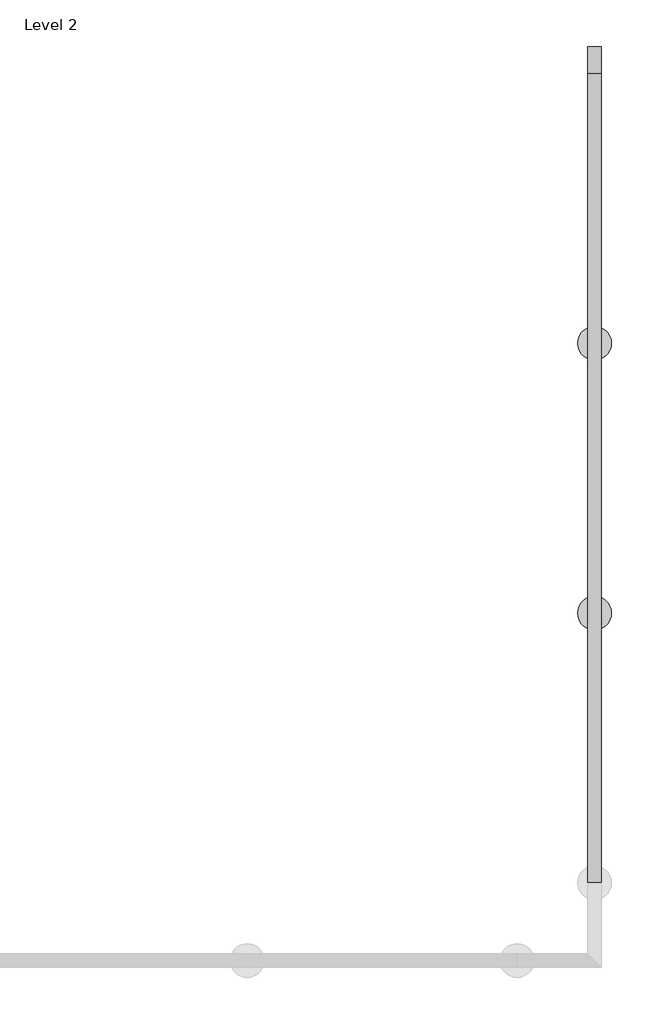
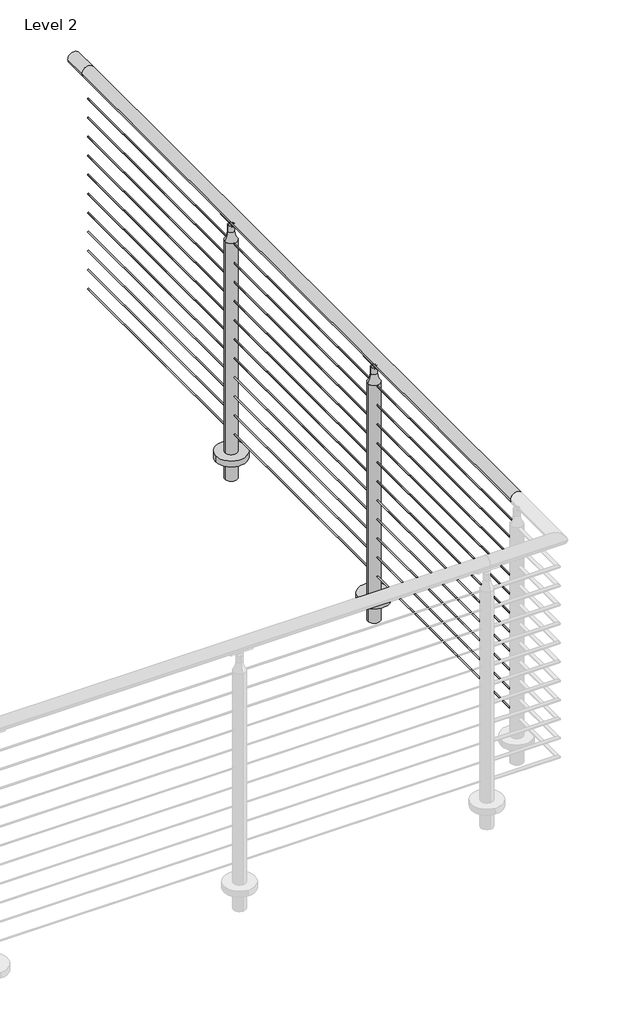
# One storey, part 21 of 21: 1 railing.
"""IFC4 building model written with IfcOpenShell, lengths in millimetres."""

from ifc_helpers import new_model, si_unit, point, frame, frame_2d, origin, place, context, project, spatial, polyline, circle_curve, ellipse_curve, trimmed, segment, composite_curve, outline, extrude, element, save
from ifc_brep_helpers import plane_surface, cylinder_surface, revolved_surface, advanced_brep

model = new_model("IFC4")

# Units and contexts
model_context = context("Model", 3, world=origin())
ifc_project = project(units=[si_unit("LENGTHUNIT", "METRE", prefix="MILLI")], contexts=[model_context])

# Site, building, storey
site = spatial("IfcSite", under=ifc_project)
building = spatial("IfcBuilding", under=site)
storey = spatial("IfcBuildingStorey", under=building, Name="Level 2", Elevation=3048.0)

# Railing
placement = place(None, origin())
element("IfcRailing", 1, ObjectType="VIVA-CIRCA-Cable-Core Mount-Straight", at=placement, inside=storey, context=model_context, shape_type="SolidModel", body=[
    advanced_brep(
    [(71120.6810647, -51812.6426165, 4102.1), (71069.8810647, -51812.6426165, 4102.1), (71120.6810647, -48764.6426165, 4102.1), (71069.8810647, -48764.6426165, 4102.1), (71120.6810647, -48663.0426165, 4102.1), (71069.8810647, -48663.0426165, 4102.1)],
    [
        (0, 1, circle_curve(frame((71095.2810647, -51812.6426165, 4102.1), z_axis=(0.0, -1.0, 0.0), x_axis=(-1.0, 0.0, 0.0)), 25.4)),
        (1, 0, circle_curve(frame((71095.2810647, -51812.6426165, 4102.1), z_axis=(0.0, -1.0, 0.0), x_axis=(-1.0, 0.0, 0.0)), 25.4)),
        (0, 2),
        (2, 3, circle_curve(frame((71095.2810647, -48764.6426165, 4102.1), z_axis=(0.0, -1.0, 0.0), x_axis=(-1.0, 0.0, 0.0)), 25.4)),
        (3, 1),
        (3, 2, circle_curve(frame((71095.2810647, -48764.6426165, 4102.1), z_axis=(0.0, -1.0, 0.0), x_axis=(-1.0, 0.0, 0.0)), 25.4)),
        (4, 5, circle_curve(frame((71095.2810647, -48663.0426165, 4102.1), z_axis=(0.0, 1.0, 0.0), x_axis=(-1.0, 0.0, 0.0)), 25.4)),
        (5, 4, circle_curve(frame((71095.2810647, -48663.0426165, 4102.1), z_axis=(0.0, 1.0, 0.0), x_axis=(-1.0, 0.0, 0.0)), 25.4)),
        (2, 4),
        (5, 3),
    ],
    [
        plane_surface(frame((71095.2810647, -51812.6426165, 4127.5), z_axis=(0.0, -1.0, 0.0), x_axis=(0.0, 0.0, 1.0))),
        cylinder_surface(frame((71095.2810647, -51812.6426165, 4102.1), z_axis=(0.0, -1.0, 0.0), x_axis=(-1.0, 0.0, 0.0)), 25.4),
        plane_surface(frame((71095.2810647, -48663.0426165, 4127.5), z_axis=(0.0, 1.0, 0.0), x_axis=(0.0, 0.0, 1.0))),
        cylinder_surface(frame((71095.2810647, -48764.6426165, 4102.1), z_axis=(0.0, -1.0, 0.0), x_axis=(-1.0, 0.0, 0.0)), 25.4),
    ],
    [
        (0, [[1, 2]]),
        (1, [[-1, 3, 4, 5]]),
        (1, [[-2, -5, 6, -3]]),
        (2, [[7, 8]]),
        (3, [[-4, 9, -8, 10]]),
        (3, [[-6, -10, -7, -9]]),
    ],
),
    extrude(outline(composite_curve([segment(trimmed(circle_curve(frame_2d((3985.4124, 71095.2810647)), 2.3876), [point((3985.4124, 71092.8934647))], [point((3985.4124, 71097.6686647))], False, "CARTESIAN"), True, "CONTINUOUS"), segment(trimmed(circle_curve(frame_2d((3985.4124, 71095.2810647)), 2.3876), [point((3985.4124, 71097.6686647))], [point((3985.4124, 71092.8934647))], False, "CARTESIAN"), True, "CONTINUOUS")], self_intersect=False)), frame((0.0, -51812.6426165, 0.0), z_axis=(0.0, 1.0, 0.0), x_axis=(0.0, 0.0, 1.0)), (0.0, 0.0, 1.0), 3048.0),
    extrude(outline(composite_curve([segment(trimmed(circle_curve(frame_2d((3902.8624, 71095.2810647)), 2.3876), [point((3902.8624, 71092.8934647))], [point((3902.8624, 71097.6686647))], False, "CARTESIAN"), True, "CONTINUOUS"), segment(trimmed(circle_curve(frame_2d((3902.8624, 71095.2810647)), 2.3876), [point((3902.8624, 71097.6686647))], [point((3902.8624, 71092.8934647))], False, "CARTESIAN"), True, "CONTINUOUS")], self_intersect=False)), frame((0.0, -51812.6426165, 0.0), z_axis=(0.0, 1.0, 0.0), x_axis=(0.0, 0.0, 1.0)), (0.0, 0.0, 1.0), 3048.0),
    extrude(outline(composite_curve([segment(trimmed(circle_curve(frame_2d((3820.3124, 71095.2810647)), 2.3876), [point((3820.3124, 71092.8934647))], [point((3820.3124, 71097.6686647))], False, "CARTESIAN"), True, "CONTINUOUS"), segment(trimmed(circle_curve(frame_2d((3820.3124, 71095.2810647)), 2.3876), [point((3820.3124, 71097.6686647))], [point((3820.3124, 71092.8934647))], False, "CARTESIAN"), True, "CONTINUOUS")], self_intersect=False)), frame((0.0, -51812.6426165, 0.0), z_axis=(0.0, 1.0, 0.0), x_axis=(0.0, 0.0, 1.0)), (0.0, 0.0, 1.0), 3048.0),
    extrude(outline(composite_curve([segment(trimmed(circle_curve(frame_2d((3737.7624, 71095.2810647)), 2.3876), [point((3737.7624, 71092.8934647))], [point((3737.7624, 71097.6686647))], False, "CARTESIAN"), True, "CONTINUOUS"), segment(trimmed(circle_curve(frame_2d((3737.7624, 71095.2810647)), 2.3876), [point((3737.7624, 71097.6686647))], [point((3737.7624, 71092.8934647))], False, "CARTESIAN"), True, "CONTINUOUS")], self_intersect=False)), frame((0.0, -51812.6426165, 0.0), z_axis=(0.0, 1.0, 0.0), x_axis=(0.0, 0.0, 1.0)), (0.0, 0.0, 1.0), 3048.0),
    extrude(outline(composite_curve([segment(trimmed(circle_curve(frame_2d((3655.2124, 71095.2810647)), 2.3876), [point((3655.2124, 71092.8934647))], [point((3655.2124, 71097.6686647))], False, "CARTESIAN"), True, "CONTINUOUS"), segment(trimmed(circle_curve(frame_2d((3655.2124, 71095.2810647)), 2.3876), [point((3655.2124, 71097.6686647))], [point((3655.2124, 71092.8934647))], False, "CARTESIAN"), True, "CONTINUOUS")], self_intersect=False)), frame((0.0, -51812.6426165, 0.0), z_axis=(0.0, 1.0, 0.0), x_axis=(0.0, 0.0, 1.0)), (0.0, 0.0, 1.0), 3048.0),
    extrude(outline(composite_curve([segment(trimmed(circle_curve(frame_2d((3572.6624, 71095.2810647)), 2.3876), [point((3572.6624, 71092.8934647))], [point((3572.6624, 71097.6686647))], False, "CARTESIAN"), True, "CONTINUOUS"), segment(trimmed(circle_curve(frame_2d((3572.6624, 71095.2810647)), 2.3876), [point((3572.6624, 71097.6686647))], [point((3572.6624, 71092.8934647))], False, "CARTESIAN"), True, "CONTINUOUS")], self_intersect=False)), frame((0.0, -51812.6426165, 0.0), z_axis=(0.0, 1.0, 0.0), x_axis=(0.0, 0.0, 1.0)), (0.0, 0.0, 1.0), 3048.0),
    extrude(outline(composite_curve([segment(trimmed(circle_curve(frame_2d((3490.1124, 71095.2810647)), 2.3876), [point((3490.1124, 71092.8934647))], [point((3490.1124, 71097.6686647))], False, "CARTESIAN"), True, "CONTINUOUS"), segment(trimmed(circle_curve(frame_2d((3490.1124, 71095.2810647)), 2.3876), [point((3490.1124, 71097.6686647))], [point((3490.1124, 71092.8934647))], False, "CARTESIAN"), True, "CONTINUOUS")], self_intersect=False)), frame((0.0, -51812.6426165, 0.0), z_axis=(0.0, 1.0, 0.0), x_axis=(0.0, 0.0, 1.0)), (0.0, 0.0, 1.0), 3048.0),
    extrude(outline(composite_curve([segment(trimmed(circle_curve(frame_2d((3407.5624, 71095.2810647)), 2.3876), [point((3407.5624, 71092.8934647))], [point((3407.5624, 71097.6686647))], False, "CARTESIAN"), True, "CONTINUOUS"), segment(trimmed(circle_curve(frame_2d((3407.5624, 71095.2810647)), 2.3876), [point((3407.5624, 71097.6686647))], [point((3407.5624, 71092.8934647))], False, "CARTESIAN"), True, "CONTINUOUS")], self_intersect=False)), frame((0.0, -51812.6426165, 0.0), z_axis=(0.0, 1.0, 0.0), x_axis=(0.0, 0.0, 1.0)), (0.0, 0.0, 1.0), 3048.0),
    extrude(outline(composite_curve([segment(trimmed(circle_curve(frame_2d((3325.0124, 71095.2810647)), 2.3876), [point((3325.0124, 71092.8934647))], [point((3325.0124, 71097.6686647))], False, "CARTESIAN"), True, "CONTINUOUS"), segment(trimmed(circle_curve(frame_2d((3325.0124, 71095.2810647)), 2.3876), [point((3325.0124, 71097.6686647))], [point((3325.0124, 71092.8934647))], False, "CARTESIAN"), True, "CONTINUOUS")], self_intersect=False)), frame((0.0, -51812.6426165, 0.0), z_axis=(0.0, 1.0, 0.0), x_axis=(0.0, 0.0, 1.0)), (0.0, 0.0, 1.0), 3048.0),
    extrude(outline(composite_curve([segment(trimmed(circle_curve(frame_2d((3242.4624, 71095.2810647)), 2.3876), [point((3242.4624, 71092.8934647))], [point((3242.4624, 71097.6686647))], False, "CARTESIAN"), True, "CONTINUOUS"), segment(trimmed(circle_curve(frame_2d((3242.4624, 71095.2810647)), 2.3876), [point((3242.4624, 71097.6686647))], [point((3242.4624, 71092.8934647))], False, "CARTESIAN"), True, "CONTINUOUS")], self_intersect=False)), frame((0.0, -51812.6426165, 0.0), z_axis=(0.0, 1.0, 0.0), x_axis=(0.0, 0.0, 1.0)), (0.0, 0.0, 1.0), 3048.0),
    extrude(outline(composite_curve([segment(trimmed(circle_curve(frame_2d((3159.9124, 71095.2810647)), 2.3876), [point((3159.9124, 71092.8934647))], [point((3159.9124, 71097.6686647))], False, "CARTESIAN"), True, "CONTINUOUS"), segment(trimmed(circle_curve(frame_2d((3159.9124, 71095.2810647)), 2.3876), [point((3159.9124, 71097.6686647))], [point((3159.9124, 71092.8934647))], False, "CARTESIAN"), True, "CONTINUOUS")], self_intersect=False)), frame((0.0, -51812.6426165, 0.0), z_axis=(0.0, 1.0, 0.0), x_axis=(0.0, 0.0, 1.0)), (0.0, 0.0, 1.0), 3048.0),
    extrude(outline(composite_curve([segment(trimmed(circle_curve(frame_2d((71095.2810647, -49780.2457415)), 63.5), [point((71158.7810647, -49780.2457415))], [point((71031.7810647, -49780.2457415))], False, "CARTESIAN"), True, "CONTINUOUS"), segment(trimmed(circle_curve(frame_2d((71095.2810647, -49780.2457415)), 63.5), [point((71031.7810647, -49780.2457415))], [point((71158.7810647, -49780.2457415))], False, "CARTESIAN"), True, "CONTINUOUS")], self_intersect=False)), frame((0.0, 0.0, 3048.0), z_axis=(0.0, 0.0, 1.0), x_axis=(1.0, 0.0, 0.0)), (0.0, 0.0, 1.0), 25.4),
    extrude(outline(composite_curve([segment(trimmed(circle_curve(frame_2d((4103.4254922, 71095.1843364)), 25.4345159), [point((4081.3106679, 71107.7481393))], [point((4081.2157471, 71082.7891026))], True, "CARTESIAN"), True, "CONTINUOUS"), segment(trimmed(circle_curve(frame_2d((4078.7132623, 71081.5444495)), 2.7949225), [point((4081.2157471, 71082.7891026))], [point((4076.3406769, 71080.0671444))], False, "CARTESIAN"), True, "CONTINUOUS"), segment(trimmed(circle_curve(frame_2d((4104.1881188, 71095.3177994)), 31.75), [point((4076.3406769, 71080.0671444))], [point((4076.9214354, 71111.5840367))], False, "CARTESIAN"), True, "CONTINUOUS"), segment(trimmed(circle_curve(frame_2d((4078.7923545, 71109.2956969)), 2.9558141), [point((4076.9214354, 71111.5840367))], [point((4081.3106679, 71107.7481393))], False, "CARTESIAN"), True, "CONTINUOUS")], self_intersect=False)), frame((0.0, -49825.4831415, 0.0), z_axis=(0.0, 1.0, 0.0), x_axis=(0.0, 0.0, 1.0)), (0.0, 0.0, 1.0), 90.4748),
    advanced_brep(
    [(71092.7410647, -49753.1778267, 4072.6506908), (71092.7410647, -49767.5457415, 4058.282776), (71092.7410647, -49792.9457415, 4058.282776), (71092.7410647, -49807.3136564, 4072.6506908), (71097.8210647, -49753.1778267, 4072.6506908), (71097.8210647, -49807.3136564, 4072.6506908), (71097.8210647, -49792.9457415, 4058.282776), (71097.8210647, -49767.5457415, 4058.282776)],
    [
        (0, 1, circle_curve(frame((71092.7410647, -49753.1778267, 4058.282776), z_axis=(1.0, 0.0, 0.0), x_axis=(0.0, -1.0, 0.0)), 14.3679149)),
        (1, 2, circle_curve(frame((71092.7410647, -49780.2457415, 4058.282776), z_axis=(-1.0, 0.0, 0.0), x_axis=(0.0, -1.0, 0.0)), 12.7)),
        (2, 3, circle_curve(frame((71092.7410647, -49807.3136564, 4058.282776), z_axis=(1.0, 0.0, 0.0), x_axis=(0.0, -1.0, 0.0)), 14.3679149)),
        (3, 0),
        (4, 5),
        (5, 6, circle_curve(frame((71097.8210647, -49807.3136564, 4058.282776), z_axis=(-1.0, 0.0, 0.0), x_axis=(0.0, -1.0, 0.0)), 14.3679149)),
        (6, 7, circle_curve(frame((71097.8210647, -49780.2457415, 4058.282776), z_axis=(1.0, 0.0, 0.0), x_axis=(0.0, -1.0, 0.0)), 12.7)),
        (7, 4, circle_curve(frame((71097.8210647, -49753.1778267, 4058.282776), z_axis=(-1.0, 0.0, 0.0), x_axis=(0.0, -1.0, 0.0)), 14.3679149)),
        (0, 4),
        (7, 1),
        (6, 2),
        (5, 3),
    ],
    [
        plane_surface(frame((71092.7410647, -49767.5457415, 4058.282776), z_axis=(-1.0, 0.0, 0.0), x_axis=(0.0, 0.0, -1.0))),
        plane_surface(frame((71097.8210647, -49767.5457415, 4058.282776), z_axis=(1.0, 0.0, 0.0), x_axis=(0.0, 0.0, 1.0))),
        revolved_surface(polyline([(71097.8210647, -49767.5457416, 4058.282776), (71092.7410647, -49767.5457416, 4058.282776)]), (71097.8210647, -49753.1778267, 4058.282776), (1.0, 0.0, 0.0)),
        cylinder_surface(frame((71097.8210647, -49780.2457415, 4058.282776), z_axis=(-1.0, 0.0, 0.0), x_axis=(0.0, -1.0, 0.0)), 12.7),
        revolved_surface(polyline([(71097.8210647, -49821.6815713, 4058.282776), (71092.7410647, -49821.6815713, 4058.282776)]), (71097.8210647, -49807.3136564, 4058.282776), (1.0, 0.0, 0.0)),
        plane_surface(frame((71092.7410647, -49807.3136564, 4072.6506908), z_axis=(0.0, 0.0, 1.0), x_axis=(1.0, 0.0, 0.0))),
    ],
    [
        (0, [[1, 2, 3, 4]]),
        (1, [[5, 6, 7, 8]]),
        (2, [[-1, 9, -8, 10]]),
        (3, [[-2, -10, -7, 11]]),
        (4, [[-3, -11, -6, 12]]),
        (5, [[-4, -12, -5, -9]]),
    ],
),
    advanced_brep(
    [(71120.6804625, -49780.2457415, 3989.1347854), (71069.8816669, -49780.2457415, 3989.1347854), (71069.8816669, -49780.2457415, 2959.1), (71120.6804625, -49780.2457415, 2959.1), (71108.0190333, -49780.2457415, 4027.3486202), (71082.5430962, -49780.2457415, 4027.3486202), (71108.0190333, -49780.2457415, 4056.5779599), (71082.5430962, -49780.2457415, 4056.5779599), (71095.2810647, -49780.2457415, 4063.238668), (71095.2810647, -49780.2457415, 2959.1)],
    [
        (0, 1, circle_curve(frame((71095.2810647, -49780.2457415, 3989.1347854), z_axis=(0.0, 0.0, -1.0), x_axis=(-1.0, 0.0, 0.0)), 25.3993978)),
        (1, 2),
        (2, 3, circle_curve(frame((71095.2810647, -49780.2457415, 2959.1), z_axis=(0.0, 0.0, 1.0), x_axis=(-1.0, 0.0, 0.0)), 25.3993978)),
        (3, 0),
        (1, 0, circle_curve(frame((71095.2810647, -49780.2457415, 3989.1347854), z_axis=(0.0, 0.0, -1.0), x_axis=(-1.0, 0.0, 0.0)), 25.3993978)),
        (3, 2, circle_curve(frame((71095.2810647, -49780.2457415, 2959.1), z_axis=(0.0, 0.0, 1.0), x_axis=(-1.0, 0.0, 0.0)), 25.3993978)),
        (4, 5, circle_curve(frame((71095.2810647, -49780.2457415, 4027.3486202), z_axis=(0.0, 0.0, -1.0), x_axis=(-1.0, 0.0, 0.0)), 12.7379685)),
        (5, 1, circle_curve(frame((71018.5452279, -49780.2457415, 4027.3486202), z_axis=(0.0, 1.0, 0.0), x_axis=(-1.0, 0.0, 0.0)), 63.9978683)),
        (0, 4, circle_curve(frame((71172.0169016, -49780.2457415, 4027.3486202), z_axis=(0.0, 1.0, 0.0), x_axis=(1.0, 0.0, 0.0)), 63.9978683)),
        (5, 4, circle_curve(frame((71095.2810647, -49780.2457415, 4027.3486202), z_axis=(0.0, 0.0, -1.0), x_axis=(-1.0, 0.0, 0.0)), 12.7379685)),
        (6, 7, circle_curve(frame((71095.2810647, -49780.2457415, 4056.5779599), z_axis=(0.0, 0.0, -1.0), x_axis=(-1.0, 0.0, 0.0)), 12.7379685)),
        (7, 5),
        (4, 6),
        (7, 6, circle_curve(frame((71095.2810647, -49780.2457415, 4056.5779599), z_axis=(0.0, 0.0, -1.0), x_axis=(-1.0, 0.0, 0.0)), 12.7379685)),
        (8, 7, circle_curve(frame((71095.2810647, -49780.2457415, 4047.7282394), z_axis=(0.0, -1.0, 0.0), x_axis=(-1.0, 0.0, 0.0)), 15.5104286)),
        (6, 8, circle_curve(frame((71095.2810647, -49780.2457415, 4047.7282394), z_axis=(0.0, -1.0, 0.0), x_axis=(1.0, 0.0, 0.0)), 15.5104286)),
        (2, 9),
        (9, 3),
    ],
    [
        cylinder_surface(frame((71095.2810647, -49780.2457415, 4152.9), z_axis=(0.0, 0.0, 1.0), x_axis=(-1.0, 0.0, 0.0)), 25.3993978),
        revolved_surface(trimmed(ellipse_curve(frame((71018.5452279, -49780.2457415, 4027.3486202), z_axis=(0.0, -1.0, 0.0), x_axis=(-1.0, 0.0, 0.0)), 63.9978683, 63.9978683), [point((71069.8816669, -49780.2457415, 3989.1347854))], [point((71082.5430962, -49780.2457415, 4027.3486202))], True, "CARTESIAN"), (71095.2810647, -49780.2457415, 4152.9), (0.0, 0.0, 1.0)),
        cylinder_surface(frame((71095.2810647, -49780.2457415, 4152.9), z_axis=(0.0, 0.0, 1.0), x_axis=(-1.0, 0.0, 0.0)), 12.7379685),
        revolved_surface(trimmed(ellipse_curve(frame((71095.2810647, -49780.2457415, 4047.7282394), z_axis=(0.0, 1.0, 0.0), x_axis=(-1.0, 0.0, 0.0)), 15.5104286, 15.5104286), [point((71082.5430962, -49780.2457415, 4056.5779599))], [point((71095.2810647, -49780.2457415, 4063.238668))], True, "CARTESIAN"), (71095.2810647, -49780.2457415, 4152.9), (0.0, 0.0, 1.0)),
        plane_surface(frame((71095.2810647, -49780.2457415, 2959.1), z_axis=(0.0, 0.0, -1.0), x_axis=(-1.0, 0.0, 0.0))),
    ],
    [
        (0, [[1, 2, 3, 4]]),
        (0, [[5, -4, 6, -2]]),
        (1, [[7, 8, -1, 9]]),
        (1, [[10, -9, -5, -8]]),
        (2, [[11, 12, -7, 13]]),
        (2, [[14, -13, -10, -12]]),
        (3, [[15, -11, 16]]),
        (3, [[-16, -14, -15]]),
        (4, [[-3, 17, 18]]),
        (4, [[-6, -18, -17]]),
    ],
),
    extrude(outline(composite_curve([segment(trimmed(circle_curve(frame_2d((71095.2810647, -50796.2457415)), 63.5), [point((71158.7810647, -50796.2457415))], [point((71031.7810647, -50796.2457415))], False, "CARTESIAN"), True, "CONTINUOUS"), segment(trimmed(circle_curve(frame_2d((71095.2810647, -50796.2457415)), 63.5), [point((71031.7810647, -50796.2457415))], [point((71158.7810647, -50796.2457415))], False, "CARTESIAN"), True, "CONTINUOUS")], self_intersect=False)), frame((0.0, 0.0, 3048.0), z_axis=(0.0, 0.0, 1.0), x_axis=(1.0, 0.0, 0.0)), (0.0, 0.0, 1.0), 25.4),
    extrude(outline(composite_curve([segment(trimmed(circle_curve(frame_2d((4103.4254922, 71095.1843364)), 25.4345159), [point((4081.3106679, 71107.7481393))], [point((4081.2157471, 71082.7891026))], True, "CARTESIAN"), True, "CONTINUOUS"), segment(trimmed(circle_curve(frame_2d((4078.7132623, 71081.5444495)), 2.7949225), [point((4081.2157471, 71082.7891026))], [point((4076.3406769, 71080.0671444))], False, "CARTESIAN"), True, "CONTINUOUS"), segment(trimmed(circle_curve(frame_2d((4104.1881188, 71095.3177994)), 31.75), [point((4076.3406769, 71080.0671444))], [point((4076.9214354, 71111.5840367))], False, "CARTESIAN"), True, "CONTINUOUS"), segment(trimmed(circle_curve(frame_2d((4078.7923545, 71109.2956969)), 2.9558141), [point((4076.9214354, 71111.5840367))], [point((4081.3106679, 71107.7481393))], False, "CARTESIAN"), True, "CONTINUOUS")], self_intersect=False)), frame((0.0, -50841.4831415, 0.0), z_axis=(0.0, 1.0, 0.0), x_axis=(0.0, 0.0, 1.0)), (0.0, 0.0, 1.0), 90.4748),
    advanced_brep(
    [(71092.7410647, -50769.1778267, 4072.6506908), (71092.7410647, -50783.5457415, 4058.282776), (71092.7410647, -50808.9457415, 4058.282776), (71092.7410647, -50823.3136564, 4072.6506908), (71097.8210647, -50769.1778267, 4072.6506908), (71097.8210647, -50823.3136564, 4072.6506908), (71097.8210647, -50808.9457415, 4058.282776), (71097.8210647, -50783.5457415, 4058.282776)],
    [
        (0, 1, circle_curve(frame((71092.7410647, -50769.1778267, 4058.282776), z_axis=(1.0, 0.0, 0.0), x_axis=(0.0, -1.0, 0.0)), 14.3679149)),
        (1, 2, circle_curve(frame((71092.7410647, -50796.2457415, 4058.282776), z_axis=(-1.0, 0.0, 0.0), x_axis=(0.0, -1.0, 0.0)), 12.7)),
        (2, 3, circle_curve(frame((71092.7410647, -50823.3136564, 4058.282776), z_axis=(1.0, 0.0, 0.0), x_axis=(0.0, -1.0, 0.0)), 14.3679149)),
        (3, 0),
        (4, 5),
        (5, 6, circle_curve(frame((71097.8210647, -50823.3136564, 4058.282776), z_axis=(-1.0, 0.0, 0.0), x_axis=(0.0, -1.0, 0.0)), 14.3679149)),
        (6, 7, circle_curve(frame((71097.8210647, -50796.2457415, 4058.282776), z_axis=(1.0, 0.0, 0.0), x_axis=(0.0, -1.0, 0.0)), 12.7)),
        (7, 4, circle_curve(frame((71097.8210647, -50769.1778267, 4058.282776), z_axis=(-1.0, 0.0, 0.0), x_axis=(0.0, -1.0, 0.0)), 14.3679149)),
        (0, 4),
        (7, 1),
        (6, 2),
        (5, 3),
    ],
    [
        plane_surface(frame((71092.7410647, -50783.5457415, 4058.282776), z_axis=(-1.0, 0.0, 0.0), x_axis=(0.0, 0.0, -1.0))),
        plane_surface(frame((71097.8210647, -50783.5457415, 4058.282776), z_axis=(1.0, 0.0, 0.0), x_axis=(0.0, 0.0, 1.0))),
        revolved_surface(polyline([(71097.8210647, -50783.5457416, 4058.282776), (71092.7410647, -50783.5457416, 4058.282776)]), (71097.8210647, -50769.1778267, 4058.282776), (1.0, 0.0, 0.0)),
        cylinder_surface(frame((71097.8210647, -50796.2457415, 4058.282776), z_axis=(-1.0, 0.0, 0.0), x_axis=(0.0, -1.0, 0.0)), 12.7),
        revolved_surface(polyline([(71097.8210647, -50837.6815713, 4058.282776), (71092.7410647, -50837.6815713, 4058.282776)]), (71097.8210647, -50823.3136564, 4058.282776), (1.0, 0.0, 0.0)),
        plane_surface(frame((71092.7410647, -50823.3136564, 4072.6506908), z_axis=(0.0, 0.0, 1.0), x_axis=(1.0, 0.0, 0.0))),
    ],
    [
        (0, [[1, 2, 3, 4]]),
        (1, [[5, 6, 7, 8]]),
        (2, [[-1, 9, -8, 10]]),
        (3, [[-2, -10, -7, 11]]),
        (4, [[-3, -11, -6, 12]]),
        (5, [[-4, -12, -5, -9]]),
    ],
),
    advanced_brep(
    [(71120.6804625, -50796.2457415, 3989.1347854), (71069.8816669, -50796.2457415, 3989.1347854), (71069.8816669, -50796.2457415, 2959.1), (71120.6804625, -50796.2457415, 2959.1), (71108.0190333, -50796.2457415, 4027.3486202), (71082.5430962, -50796.2457415, 4027.3486202), (71108.0190333, -50796.2457415, 4056.5779599), (71082.5430962, -50796.2457415, 4056.5779599), (71095.2810647, -50796.2457415, 4063.238668), (71095.2810647, -50796.2457415, 2959.1)],
    [
        (0, 1, circle_curve(frame((71095.2810647, -50796.2457415, 3989.1347854), z_axis=(0.0, 0.0, -1.0), x_axis=(-1.0, 0.0, 0.0)), 25.3993978)),
        (1, 2),
        (2, 3, circle_curve(frame((71095.2810647, -50796.2457415, 2959.1), z_axis=(0.0, 0.0, 1.0), x_axis=(-1.0, 0.0, 0.0)), 25.3993978)),
        (3, 0),
        (1, 0, circle_curve(frame((71095.2810647, -50796.2457415, 3989.1347854), z_axis=(0.0, 0.0, -1.0), x_axis=(-1.0, 0.0, 0.0)), 25.3993978)),
        (3, 2, circle_curve(frame((71095.2810647, -50796.2457415, 2959.1), z_axis=(0.0, 0.0, 1.0), x_axis=(-1.0, 0.0, 0.0)), 25.3993978)),
        (4, 5, circle_curve(frame((71095.2810647, -50796.2457415, 4027.3486202), z_axis=(0.0, 0.0, -1.0), x_axis=(-1.0, 0.0, 0.0)), 12.7379685)),
        (5, 1, circle_curve(frame((71018.5452279, -50796.2457415, 4027.3486202), z_axis=(0.0, 1.0, 0.0), x_axis=(-1.0, 0.0, 0.0)), 63.9978683)),
        (0, 4, circle_curve(frame((71172.0169016, -50796.2457415, 4027.3486202), z_axis=(0.0, 1.0, 0.0), x_axis=(1.0, 0.0, 0.0)), 63.9978683)),
        (5, 4, circle_curve(frame((71095.2810647, -50796.2457415, 4027.3486202), z_axis=(0.0, 0.0, -1.0), x_axis=(-1.0, 0.0, 0.0)), 12.7379685)),
        (6, 7, circle_curve(frame((71095.2810647, -50796.2457415, 4056.5779599), z_axis=(0.0, 0.0, -1.0), x_axis=(-1.0, 0.0, 0.0)), 12.7379685)),
        (7, 5),
        (4, 6),
        (7, 6, circle_curve(frame((71095.2810647, -50796.2457415, 4056.5779599), z_axis=(0.0, 0.0, -1.0), x_axis=(-1.0, 0.0, 0.0)), 12.7379685)),
        (8, 7, circle_curve(frame((71095.2810647, -50796.2457415, 4047.7282394), z_axis=(0.0, -1.0, 0.0), x_axis=(-1.0, 0.0, 0.0)), 15.5104286)),
        (6, 8, circle_curve(frame((71095.2810647, -50796.2457415, 4047.7282394), z_axis=(0.0, -1.0, 0.0), x_axis=(1.0, 0.0, 0.0)), 15.5104286)),
        (2, 9),
        (9, 3),
    ],
    [
        cylinder_surface(frame((71095.2810647, -50796.2457415, 4152.9), z_axis=(0.0, 0.0, 1.0), x_axis=(-1.0, 0.0, 0.0)), 25.3993978),
        revolved_surface(trimmed(ellipse_curve(frame((71018.5452279, -50796.2457415, 4027.3486202), z_axis=(0.0, -1.0, 0.0), x_axis=(-1.0, 0.0, 0.0)), 63.9978683, 63.9978683), [point((71069.8816669, -50796.2457415, 3989.1347854))], [point((71082.5430962, -50796.2457415, 4027.3486202))], True, "CARTESIAN"), (71095.2810647, -50796.2457415, 4152.9), (0.0, 0.0, 1.0)),
        cylinder_surface(frame((71095.2810647, -50796.2457415, 4152.9), z_axis=(0.0, 0.0, 1.0), x_axis=(-1.0, 0.0, 0.0)), 12.7379685),
        revolved_surface(trimmed(ellipse_curve(frame((71095.2810647, -50796.2457415, 4047.7282394), z_axis=(0.0, 1.0, 0.0), x_axis=(-1.0, 0.0, 0.0)), 15.5104286, 15.5104286), [point((71082.5430962, -50796.2457415, 4056.5779599))], [point((71095.2810647, -50796.2457415, 4063.238668))], True, "CARTESIAN"), (71095.2810647, -50796.2457415, 4152.9), (0.0, 0.0, 1.0)),
        plane_surface(frame((71095.2810647, -50796.2457415, 2959.1), z_axis=(0.0, 0.0, -1.0), x_axis=(-1.0, 0.0, 0.0))),
    ],
    [
        (0, [[1, 2, 3, 4]]),
        (0, [[5, -4, 6, -2]]),
        (1, [[7, 8, -1, 9]]),
        (1, [[10, -9, -5, -8]]),
        (2, [[11, 12, -7, 13]]),
        (2, [[14, -13, -10, -12]]),
        (3, [[15, -11, 16]]),
        (3, [[-16, -14, -15]]),
        (4, [[-3, 17, 18]]),
        (4, [[-6, -18, -17]]),
    ],
),
])

save(model, "model.ifc")
